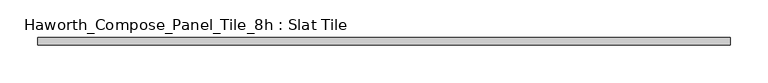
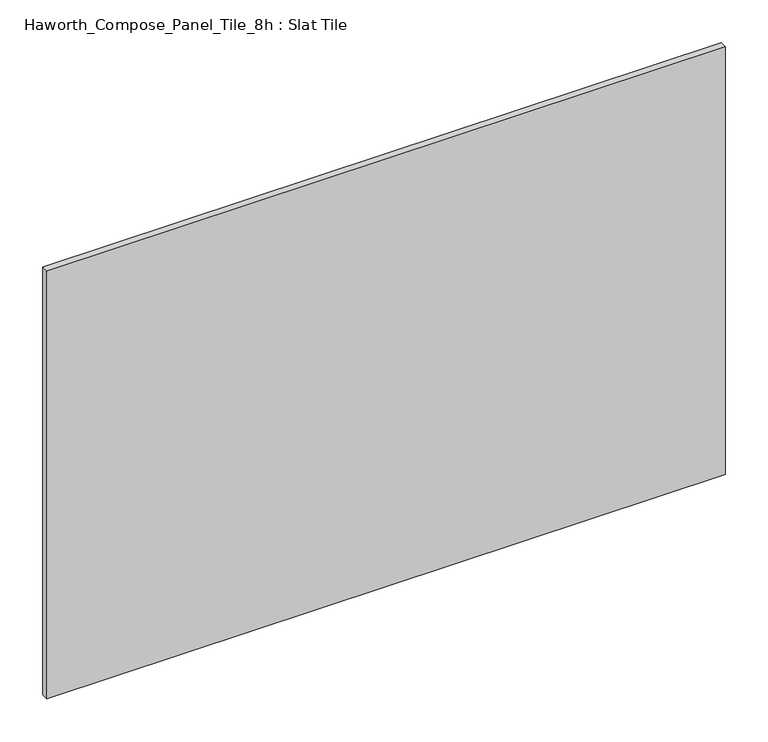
"""IFC4 building model written with IfcOpenShell, lengths in millimetres: furniture geometry, Haworth_Compose_Panel_Tile_8h : Slat Tile."""

from ifc_helpers import new_model, si_unit, frame, origin, place, context, project, spatial, polyline, outline, extrude, source, transform, mapped, element, save


def haworth_compose_panel_tile_8h_slat_tile_229c39c6(model_context):
    return source(origin(), model_context, "Body", "SweptSolid", [
        extrude(outline(polyline([(459.6402902, -25.7218594), (-454.7597098, -25.7218594), (-454.7597098, -16.1968594), (459.6402902, -16.1968594), (459.6402902, -25.7218594)])), frame((0.0, 0.0, 1066.8), z_axis=(0.0, 0.0, 1.0), x_axis=(1.0, 0.0, 0.0)), (0.0, 0.0, 1.0), 609.6),
    ])


if __name__ == "__main__":
    model = new_model("IFC4")
    model_context = context("Model", 3, world=origin())
    ifc_project = project(units=[si_unit("LENGTHUNIT", "METRE", prefix="MILLI")], contexts=[model_context])
    site = spatial("IfcSite", under=ifc_project)
    building = spatial("IfcBuilding", under=site)
    placement = place(None, origin())
    haworth_compose_panel_tile_8h_slat_tile_shape = haworth_compose_panel_tile_8h_slat_tile_229c39c6(model_context)
    element("IfcFurniture", 1, ObjectType="Haworth_Compose_Panel_Tile_8h : Slat Tile", at=placement, inside=building, context=model_context, shape_type="MappedRepresentation", body=[
        mapped(haworth_compose_panel_tile_8h_slat_tile_shape, transform((0.0, 0.0, 0.0), x_axis=(1.0, 0.0, 0.0), y_axis=(0.0, 1.0, 0.0), z_axis=(0.0, 0.0, 1.0))),
    ])
    save(model, "model.ifc")
